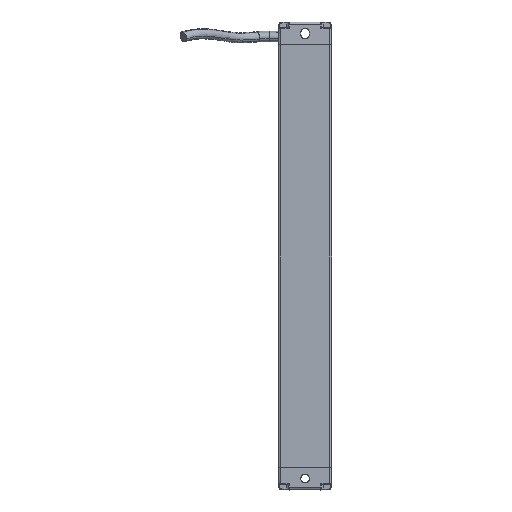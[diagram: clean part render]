
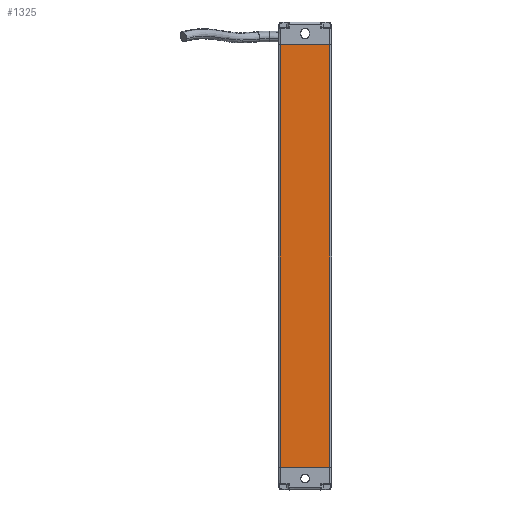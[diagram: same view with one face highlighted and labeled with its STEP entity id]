
A CAD part, front view. The second image highlights one B-rep face of the part: STEP entity #1325.
In plain terms, the highlighted planar face has unit normal (-0.001, -1, 0).
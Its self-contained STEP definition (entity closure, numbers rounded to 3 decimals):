
#926=PLANE('',#14757);
#1325=ADVANCED_FACE('',(#2397),#926,.T.);
#2397=FACE_OUTER_BOUND('',#3118,.T.);
#3118=EDGE_LOOP('',(#4993,#4994,#4995,#4996));
#4993=ORIENTED_EDGE('',*,*,#10364,.T.);
#4994=ORIENTED_EDGE('',*,*,#10328,.F.);
#4995=ORIENTED_EDGE('',*,*,#10362,.T.);
#4996=ORIENTED_EDGE('',*,*,#10365,.T.);
#8787=VERTEX_POINT('',#20393);
#8788=VERTEX_POINT('',#20395);
#8814=VERTEX_POINT('',#20462);
#8815=VERTEX_POINT('',#20466);
#10328=EDGE_CURVE('',#8787,#8788,#12371,.T.);
#10362=EDGE_CURVE('',#8787,#8814,#12393,.T.);
#10364=EDGE_CURVE('',#8815,#8788,#12394,.T.);
#10365=EDGE_CURVE('',#8814,#8815,#12395,.T.);
#12371=LINE('',#20394,#13584);
#12393=LINE('',#20461,#13606);
#12394=LINE('',#20465,#13607);
#12395=LINE('',#20467,#13608);
#13584=VECTOR('',#16540,1.);
#13606=VECTOR('',#16600,1.);
#13607=VECTOR('',#16605,1.);
#13608=VECTOR('',#16606,1.);
#14757=AXIS2_PLACEMENT_3D('',#20468,#16607,#16608);
#16540=DIRECTION('',(1.,-0.001,0.));
#16600=DIRECTION('',(0.,0.,-1.));
#16605=DIRECTION('',(0.,0.,1.));
#16606=DIRECTION('',(1.,-0.001,0.));
#16607=DIRECTION('',(-0.001,-1.,0.));
#16608=DIRECTION('',(1.,-0.001,0.));
#20393=CARTESIAN_POINT('',(53.048,-142.376,420.376));
#20394=CARTESIAN_POINT('',(79.028,-142.395,420.376));
#20395=CARTESIAN_POINT('',(79.028,-142.395,420.376));
#20461=CARTESIAN_POINT('',(53.048,-142.376,543.376));
#20462=CARTESIAN_POINT('',(53.048,-142.376,198.376));
#20465=CARTESIAN_POINT('',(79.028,-142.395,198.376));
#20466=CARTESIAN_POINT('',(79.028,-142.395,198.376));
#20467=CARTESIAN_POINT('',(53.048,-142.376,198.376));
#20468=CARTESIAN_POINT('',(79.028,-142.395,543.376));
